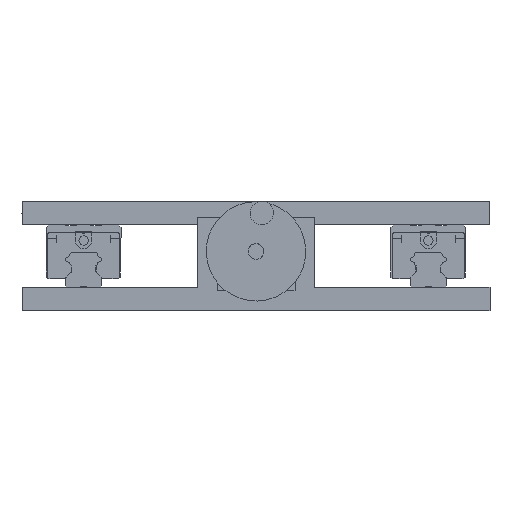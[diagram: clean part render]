
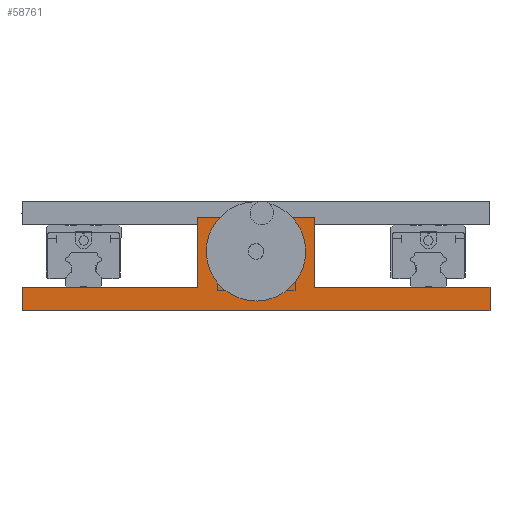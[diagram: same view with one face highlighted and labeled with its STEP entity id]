
A CAD part, front view. The second image highlights one B-rep face of the part: STEP entity #58761.
In plain terms, the highlighted planar face has unit normal (0, -1, 0).
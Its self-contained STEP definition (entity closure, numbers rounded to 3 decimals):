
#584 = EDGE_CURVE ( 'NONE', #72736, #64613, #31863, .T. ) ;
#861 = CARTESIAN_POINT ( 'NONE',  ( 37.5, -916.5, 60. ) ) ;
#2148 = VECTOR ( 'NONE', #11499, 1000. ) ;
#2680 = VECTOR ( 'NONE', #67528, 1000. ) ;
#3529 = DIRECTION ( 'NONE',  ( 0., 1., 0. ) ) ;
#5560 = CARTESIAN_POINT ( 'NONE',  ( 150., -916.5, 15. ) ) ;
#5941 = ORIENTED_EDGE ( 'NONE', *, *, #21425, .F. ) ;
#6178 = CARTESIAN_POINT ( 'NONE',  ( 37.5, -916.5, 60. ) ) ;
#6356 = VERTEX_POINT ( 'NONE', #24625 ) ;
#6441 = VERTEX_POINT ( 'NONE', #13690 ) ;
#9383 = ORIENTED_EDGE ( 'NONE', *, *, #25814, .F. ) ;
#10160 = ORIENTED_EDGE ( 'NONE', *, *, #14459, .T. ) ;
#10200 = CARTESIAN_POINT ( 'NONE',  ( 0., -916.5, 43. ) ) ;
#10554 = DIRECTION ( 'NONE',  ( 1., 0., 0. ) ) ;
#11072 = CARTESIAN_POINT ( 'NONE',  ( 37.5, -916.5, 15. ) ) ;
#11268 = VECTOR ( 'NONE', #39811, 1000. ) ;
#11499 = DIRECTION ( 'NONE',  ( 0., 0., -1. ) ) ;
#13235 = ORIENTED_EDGE ( 'NONE', *, *, #23555, .F. ) ;
#13591 = VECTOR ( 'NONE', #10554, 1000. ) ;
#13690 = CARTESIAN_POINT ( 'NONE',  ( -150., -916.5, 15. ) ) ;
#13992 = EDGE_CURVE ( 'NONE', #70769, #6356, #64660, .T. ) ;
#14459 = EDGE_CURVE ( 'NONE', #60146, #14904, #78561, .T. ) ;
#14904 = VERTEX_POINT ( 'NONE', #23459 ) ;
#15565 = CARTESIAN_POINT ( 'NONE',  ( -150., -916.5, 15. ) ) ;
#16317 = VECTOR ( 'NONE', #57320, 1000. ) ;
#16390 = DIRECTION ( 'NONE',  ( 0., 0., 1. ) ) ;
#17028 = AXIS2_PLACEMENT_3D ( 'NONE', #30913, #50440, #81204 ) ;
#18054 = CARTESIAN_POINT ( 'NONE',  ( -150., -916.5, 15. ) ) ;
#18852 = EDGE_CURVE ( 'NONE', #6441, #60146, #35843, .T. ) ;
#20452 = ORIENTED_EDGE ( 'NONE', *, *, #13992, .F. ) ;
#21425 = EDGE_CURVE ( 'NONE', #6356, #70769, #77126, .T. ) ;
#22270 = CARTESIAN_POINT ( 'NONE',  ( -150., -916.5, 0. ) ) ;
#22310 = CARTESIAN_POINT ( 'NONE',  ( -37.5, -916.5, 60. ) ) ;
#23029 = FACE_OUTER_BOUND ( 'NONE', #75064, .T. ) ;
#23459 = CARTESIAN_POINT ( 'NONE',  ( 150., -916.5, 0. ) ) ;
#23555 = EDGE_CURVE ( 'NONE', #65553, #72736, #63393, .T. ) ;
#24215 = VECTOR ( 'NONE', #76624, 1000. ) ;
#24625 = CARTESIAN_POINT ( 'NONE',  ( 0., -916.5, 33. ) ) ;
#24987 = DIRECTION ( 'NONE',  ( 0., 0., 1. ) ) ;
#25814 = EDGE_CURVE ( 'NONE', #64613, #56139, #44122, .T. ) ;
#27488 = ORIENTED_EDGE ( 'NONE', *, *, #58346, .F. ) ;
#30208 = LINE ( 'NONE', #31125, #24215 ) ;
#30913 = CARTESIAN_POINT ( 'NONE',  ( 0., -916.5, 38. ) ) ;
#31125 = CARTESIAN_POINT ( 'NONE',  ( -150., -916.5, 15. ) ) ;
#31863 = LINE ( 'NONE', #6178, #70744 ) ;
#32998 = ORIENTED_EDGE ( 'NONE', *, *, #18852, .T. ) ;
#33844 = VECTOR ( 'NONE', #61754, 1000. ) ;
#34481 = EDGE_CURVE ( 'NONE', #65553, #63959, #49175, .T. ) ;
#35769 = ORIENTED_EDGE ( 'NONE', *, *, #71633, .F. ) ;
#35843 = LINE ( 'NONE', #18054, #33844 ) ;
#37217 = ORIENTED_EDGE ( 'NONE', *, *, #34481, .T. ) ;
#39811 = DIRECTION ( 'NONE',  ( 1., 0., 0. ) ) ;
#44122 = LINE ( 'NONE', #77812, #11268 ) ;
#47463 = EDGE_LOOP ( 'NONE', ( #20452, #5941 ) ) ;
#48817 = CARTESIAN_POINT ( 'NONE',  ( -37.5, -916.5, 60. ) ) ;
#49078 = CARTESIAN_POINT ( 'NONE',  ( -37.5, -916.5, 15. ) ) ;
#49175 = LINE ( 'NONE', #76663, #16317 ) ;
#49358 = AXIS2_PLACEMENT_3D ( 'NONE', #15565, #3529, #16390 ) ;
#50440 = DIRECTION ( 'NONE',  ( 0., -1., 0. ) ) ;
#52002 = LINE ( 'NONE', #56596, #2148 ) ;
#53162 = ORIENTED_EDGE ( 'NONE', *, *, #584, .F. ) ;
#56139 = VERTEX_POINT ( 'NONE', #5560 ) ;
#56596 = CARTESIAN_POINT ( 'NONE',  ( 150., -916.5, 15. ) ) ;
#57185 = DIRECTION ( 'NONE',  ( 0., 0., -1. ) ) ;
#57320 = DIRECTION ( 'NONE',  ( 0., 0., -1. ) ) ;
#58346 = EDGE_CURVE ( 'NONE', #6441, #63959, #30208, .T. ) ;
#58761 = ADVANCED_FACE ( 'NONE', ( #60842, #23029 ), #79994, .F. ) ;
#60146 = VERTEX_POINT ( 'NONE', #22270 ) ;
#60842 = FACE_BOUND ( 'NONE', #47463, .T. ) ;
#61754 = DIRECTION ( 'NONE',  ( 0., 0., -1. ) ) ;
#63138 = CARTESIAN_POINT ( 'NONE',  ( 0., -916.5, 38. ) ) ;
#63393 = LINE ( 'NONE', #22310, #13591 ) ;
#63959 = VERTEX_POINT ( 'NONE', #49078 ) ;
#64613 = VERTEX_POINT ( 'NONE', #11072 ) ;
#64660 = CIRCLE ( 'NONE', #78821, 5. ) ;
#65553 = VERTEX_POINT ( 'NONE', #48817 ) ;
#67528 = DIRECTION ( 'NONE',  ( 1., 0., 0. ) ) ;
#70744 = VECTOR ( 'NONE', #57185, 1000. ) ;
#70769 = VERTEX_POINT ( 'NONE', #10200 ) ;
#71633 = EDGE_CURVE ( 'NONE', #56139, #14904, #52002, .T. ) ;
#72736 = VERTEX_POINT ( 'NONE', #861 ) ;
#75064 = EDGE_LOOP ( 'NONE', ( #10160, #35769, #9383, #53162, #13235, #37217, #27488, #32998 ) ) ;
#76039 = DIRECTION ( 'NONE',  ( 0., -1., 0. ) ) ;
#76624 = DIRECTION ( 'NONE',  ( 1., 0., 0. ) ) ;
#76663 = CARTESIAN_POINT ( 'NONE',  ( -37.5, -916.5, 60. ) ) ;
#77126 = CIRCLE ( 'NONE', #17028, 5. ) ;
#77812 = CARTESIAN_POINT ( 'NONE',  ( -150., -916.5, 15. ) ) ;
#78561 = LINE ( 'NONE', #81584, #2680 ) ;
#78821 = AXIS2_PLACEMENT_3D ( 'NONE', #63138, #76039, #24987 ) ;
#79994 = PLANE ( 'NONE',  #49358 ) ;
#81204 = DIRECTION ( 'NONE',  ( 0., 0., 1. ) ) ;
#81584 = CARTESIAN_POINT ( 'NONE',  ( -150., -916.5, 0. ) ) ;
